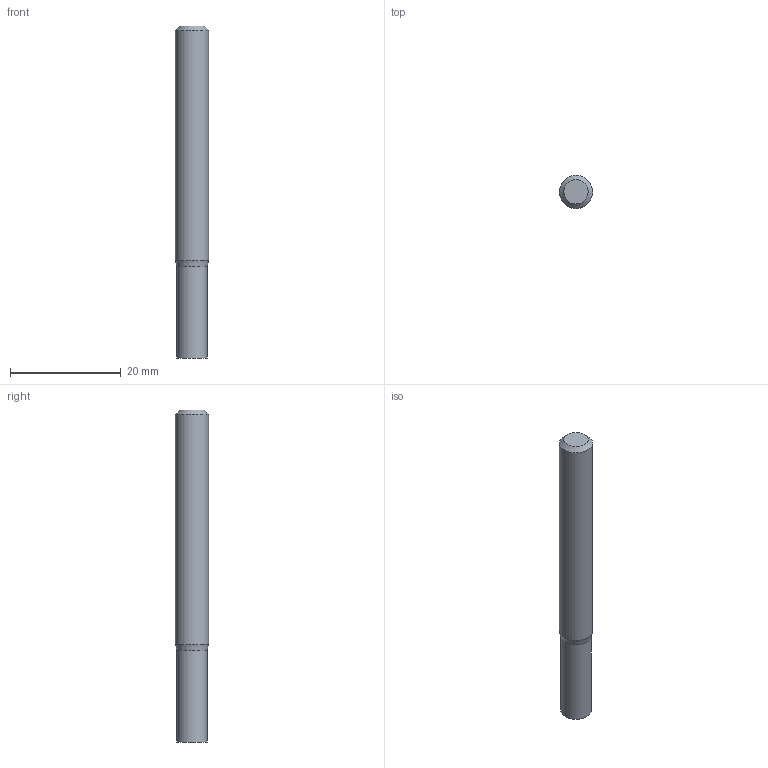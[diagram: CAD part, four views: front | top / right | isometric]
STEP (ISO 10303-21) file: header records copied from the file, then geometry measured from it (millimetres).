
FILE_DESCRIPTION((''),'2;1');
FILE_NAME('C:\Users\nsx150\AppData\Local\Temp\Mastercam 2021\E36A1X9CCL\TEMP.step','2023-04-21T15:18:30',(''),(''),'STEP Write','Mastercam 2021 ... CNC Software, Inc.','');
FILE_SCHEMA(('AUTOMOTIVE_DESIGN'));
Length unit declared in the file: millimetre
Products named in the file (1): None
Bounding box: 6 x 6 x 60 mm (x, y, z)
Volume: 1613.8 mm3; surface area: 1194.5 mm2
Topology: 2 solids, 2 shells, 8 faces, 10 edges, 6 vertices
Faces by surface type: plane 4, cylinder 2, cone 2
Full cylindrical faces by diameter (mm): 5.5 x1, 6 x1
Entity records: 190 total; most frequent: DIRECTION 32, CARTESIAN_POINT 22, AXIS2_PLACEMENT_3D 16, ORIENTED_EDGE 12, EDGE_LOOP 12, STYLED_ITEM 11, ADVANCED_FACE 8, VERTEX_POINT 6
